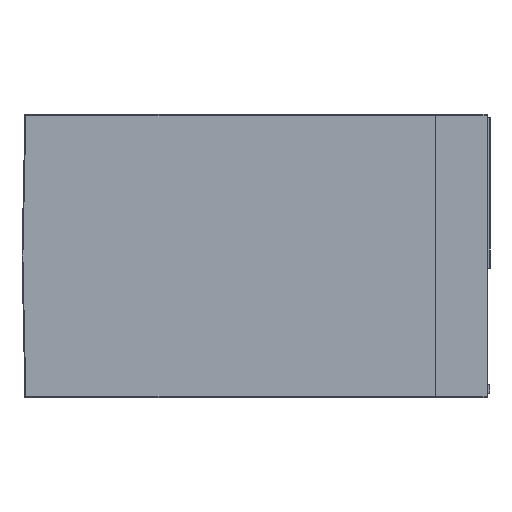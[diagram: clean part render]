
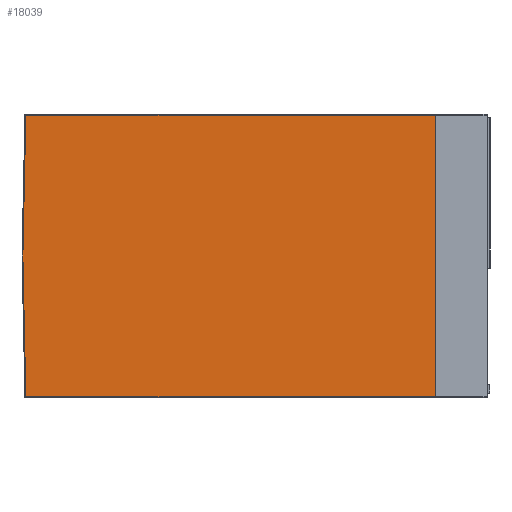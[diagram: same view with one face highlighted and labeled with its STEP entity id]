
A CAD part, left-side view. The second image highlights one B-rep face of the part: STEP entity #18039.
In plain terms, the highlighted planar face has unit normal (-1, 0, 0).
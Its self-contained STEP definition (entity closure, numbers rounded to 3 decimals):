
#66 = CARTESIAN_POINT ( 'NONE',  ( -787.5, 1562.062, 477. ) ) ;
#1924 = LINE ( 'NONE', #8922, #9946 ) ;
#2537 = CARTESIAN_POINT ( 'NONE',  ( -787.5, 175., 477. ) ) ;
#2709 = DIRECTION ( 'NONE',  ( 0., -1., 0. ) ) ;
#4755 = CARTESIAN_POINT ( 'NONE',  ( -787.5, 1622., -477. ) ) ;
#4915 = ORIENTED_EDGE ( 'NONE', *, *, #19042, .F. ) ;
#5254 = DIRECTION ( 'NONE',  ( 1., 0., 0. ) ) ;
#5286 = CARTESIAN_POINT ( 'NONE',  ( -787.5, 1572., 0. ) ) ;
#5942 = AXIS2_PLACEMENT_3D ( 'NONE', #19383, #5254, #12481 ) ;
#5959 = LINE ( 'NONE', #17988, #11010 ) ;
#6555 = PLANE ( 'NONE',  #5942 ) ;
#8179 = ORIENTED_EDGE ( 'NONE', *, *, #19020, .T. ) ;
#8245 = FACE_OUTER_BOUND ( 'NONE', #20181, .T. ) ;
#8307 = VERTEX_POINT ( 'NONE', #5286 ) ;
#8871 = VECTOR ( 'NONE', #2709, 1000. ) ;
#8922 = CARTESIAN_POINT ( 'NONE',  ( -787.5, 1562.088, 475.752 ) ) ;
#9946 = VECTOR ( 'NONE', #19582, 1000. ) ;
#11010 = VECTOR ( 'NONE', #14902, 1000. ) ;
#11487 = VERTEX_POINT ( 'NONE', #16550 ) ;
#11753 = DIRECTION ( 'NONE',  ( 0., -1., 0. ) ) ;
#11989 = LINE ( 'NONE', #4755, #21578 ) ;
#12101 = CARTESIAN_POINT ( 'NONE',  ( -787.5, 1562.062, -477. ) ) ;
#12327 = VECTOR ( 'NONE', #20082, 1000. ) ;
#12481 = DIRECTION ( 'NONE',  ( 0., 0., 1. ) ) ;
#12920 = CARTESIAN_POINT ( 'NONE',  ( -787.5, 1622., 477. ) ) ;
#14623 = VERTEX_POINT ( 'NONE', #66 ) ;
#14798 = LINE ( 'NONE', #2537, #12327 ) ;
#14902 = DIRECTION ( 'NONE',  ( 0., -0.021, -1. ) ) ;
#14904 = VERTEX_POINT ( 'NONE', #12101 ) ;
#15080 = EDGE_CURVE ( 'NONE', #18080, #11487, #14798, .T. ) ;
#16514 = ORIENTED_EDGE ( 'NONE', *, *, #16799, .T. ) ;
#16550 = CARTESIAN_POINT ( 'NONE',  ( -787.5, 175., -477. ) ) ;
#16799 = EDGE_CURVE ( 'NONE', #8307, #14904, #5959, .T. ) ;
#17988 = CARTESIAN_POINT ( 'NONE',  ( -787.5, 1581.956, 477.834 ) ) ;
#18039 = ADVANCED_FACE ( 'NONE', ( #8245 ), #6555, .F. ) ;
#18080 = VERTEX_POINT ( 'NONE', #22563 ) ;
#19020 = EDGE_CURVE ( 'NONE', #14623, #8307, #1924, .T. ) ;
#19042 = EDGE_CURVE ( 'NONE', #14623, #18080, #21612, .T. ) ;
#19383 = CARTESIAN_POINT ( 'NONE',  ( -787.5, 1622., 477. ) ) ;
#19582 = DIRECTION ( 'NONE',  ( 0., 0.021, -1. ) ) ;
#20082 = DIRECTION ( 'NONE',  ( 0., 0., -1. ) ) ;
#20181 = EDGE_LOOP ( 'NONE', ( #8179, #16514, #20691, #20688, #4915 ) ) ;
#20688 = ORIENTED_EDGE ( 'NONE', *, *, #15080, .F. ) ;
#20691 = ORIENTED_EDGE ( 'NONE', *, *, #21835, .T. ) ;
#21578 = VECTOR ( 'NONE', #11753, 1000. ) ;
#21612 = LINE ( 'NONE', #12920, #8871 ) ;
#21835 = EDGE_CURVE ( 'NONE', #14904, #11487, #11989, .T. ) ;
#22563 = CARTESIAN_POINT ( 'NONE',  ( -787.5, 175., 477. ) ) ;
